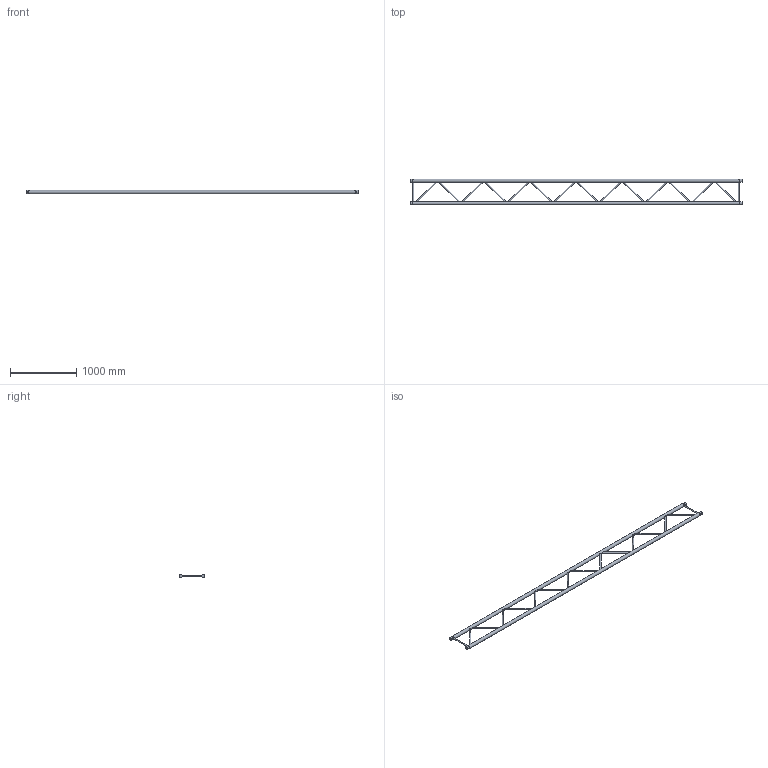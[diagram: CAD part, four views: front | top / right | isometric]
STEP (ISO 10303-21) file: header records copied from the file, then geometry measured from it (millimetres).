
FILE_DESCRIPTION(/* description */ (''),/* implementation_level */ '2;1');
FILE_NAME(/* name */ 'C:\Users\stephan\Desktop\Nieuwe map\H40L\111050162.stp',/* time_stamp */ '2016-09-12T12:55:29+02:00',/* author */ ('Stephan'),/* organization */ (''),/* preprocessor_version */ 'ST-DEVELOPER v15.6',/* originating_system */ 'Autodesk Inventor 2015',/* authorisation */ '');
FILE_SCHEMA (('AUTOMOTIVE_DESIGN { 1 0 10303 214 3 1 1 }'));
Length unit declared in the file: millimetre
Products named in the file (1): 160026996
Bounding box: 5000 x 387.3 x 48.3 mm (x, y, z)
Volume: 6520914.8 mm3; surface area: 3261778.7 mm2
Topology: 18 solids, 20 shells, 88 faces, 138 edges, 90 vertices
Faces by surface type: plane 52, cylinder 32, cone 4
Full cylindrical faces by diameter (mm): 10 x4, 20 x16, 41.8 x4, 42.3 x2, 48.3 x6
Entity records: 2188 total; most frequent: CARTESIAN_POINT 529, DIRECTION 310, ORIENTED_EDGE 176, AXIS2_PLACEMENT_3D 153, EDGE_LOOP 140, STYLED_ITEM 103, FACE_OUTER_BOUND 88, ADVANCED_FACE 88
